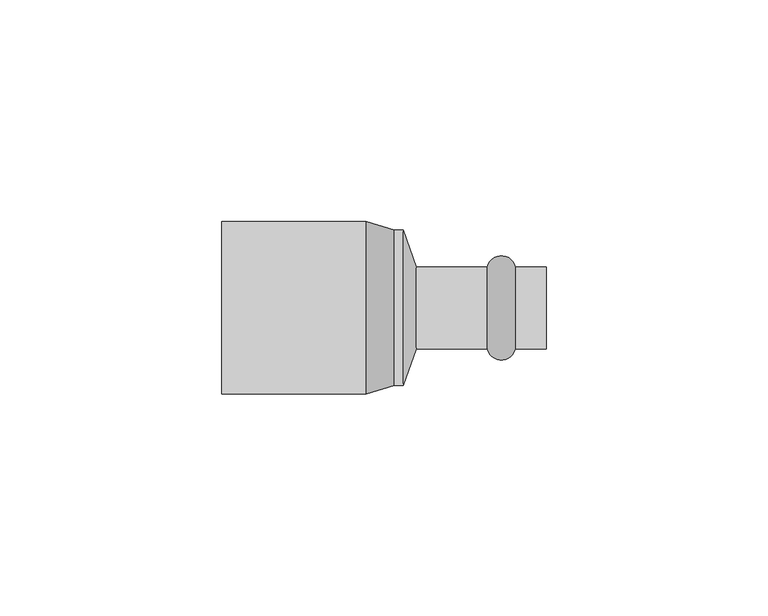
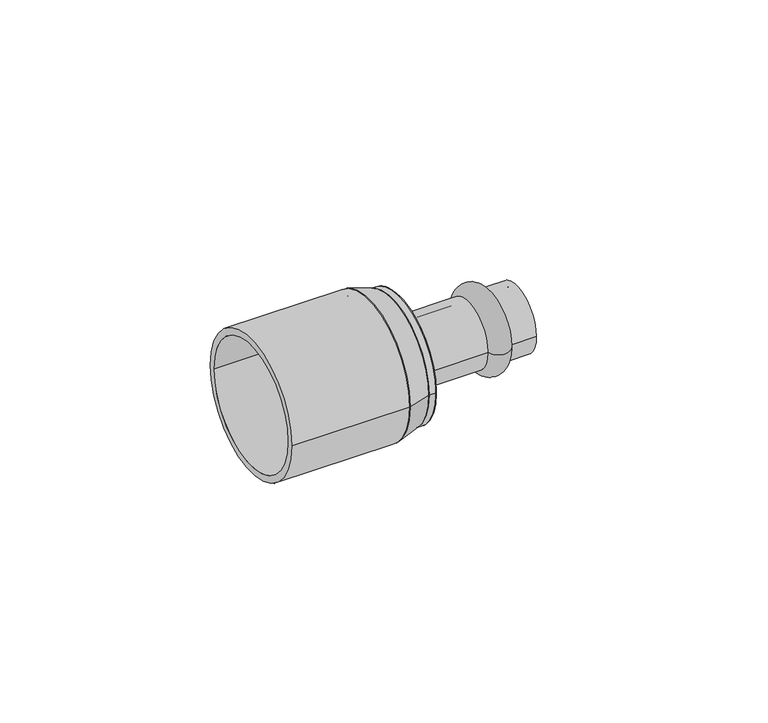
"""IFC4 building model written with IfcOpenShell, lengths in millimetres: pipe fitting geometry, VALTEC_VTi.905.I_Вставка переходная_Нержавеющая сталь : VTi.905.I."""

from ifc_helpers import new_model, si_unit, point, frame, origin, origin_2d, place, context, project, spatial, polyline, circle_curve, ellipse_curve, trimmed, segment, composite_curve, outline, extrude, source, transform, mapped, element, save
from ifc_brep_helpers import plane_surface, cylinder_surface, revolved_surface, advanced_brep


def pipe_fitting_846c0af7(model_context):
    return source(origin(), model_context, "Body", "SolidModel", [
        advanced_brep(
        [(29.6122777, -9.25, 0.0), (23.2877223, -9.25, 0.0), (23.2877223, 9.25, 0.0), (29.6122777, 9.25, 0.0), (36.5, -9.25, 0.0), (36.5, 9.25, 0.0), (36.5, -7.5, 0.0), (36.5, 7.5, 0.0), (7.3, -7.5, 0.0), (7.3, 7.5, 0.0), (7.3, -9.25, 0.0), (7.3, 9.25, 0.0)],
        [
            (0, 1, circle_curve(frame((26.45, -8.5, 0.0), z_axis=(0.0, 0.0, -1.0), x_axis=(-1.0, 0.0, 0.0)), 3.25)),
            (1, 2, circle_curve(frame((23.2877223, 0.0, 0.0), z_axis=(1.0, 0.0, 0.0), x_axis=(0.0, 1.0, 0.0)), 9.25)),
            (2, 3, circle_curve(frame((26.45, 8.5, 0.0), z_axis=(0.0, 0.0, -1.0), x_axis=(-1.0, 0.0, 0.0)), 3.25)),
            (3, 0, circle_curve(frame((29.6122777, 0.0, 0.0), z_axis=(-1.0, 0.0, 0.0), x_axis=(0.0, 1.0, 0.0)), 9.25)),
            (2, 1, circle_curve(frame((23.2877223, 0.0, 0.0), z_axis=(1.0, 0.0, 0.0), x_axis=(0.0, 1.0, 0.0)), 9.25)),
            (0, 3, circle_curve(frame((29.6122777, 0.0, 0.0), z_axis=(-1.0, 0.0, 0.0), x_axis=(0.0, 1.0, 0.0)), 9.25)),
            (4, 0),
            (3, 5),
            (5, 4, circle_curve(frame((36.5, 0.0, 0.0), z_axis=(-1.0, 0.0, 0.0), x_axis=(0.0, 1.0, 0.0)), 9.25)),
            (4, 5, circle_curve(frame((36.5, 0.0, 0.0), z_axis=(-1.0, 0.0, 0.0), x_axis=(0.0, 1.0, 0.0)), 9.25)),
            (6, 4),
            (5, 7),
            (7, 6, circle_curve(frame((36.5, 0.0, 0.0), z_axis=(-1.0, 0.0, 0.0), x_axis=(0.0, 1.0, 0.0)), 7.5)),
            (6, 7, circle_curve(frame((36.5, 0.0, 0.0), z_axis=(-1.0, 0.0, 0.0), x_axis=(0.0, 1.0, 0.0)), 7.5)),
            (8, 6),
            (7, 9),
            (9, 8, circle_curve(frame((7.3, 0.0, 0.0), z_axis=(-1.0, 0.0, 0.0), x_axis=(0.0, 1.0, 0.0)), 7.5)),
            (8, 9, circle_curve(frame((7.3, 0.0, 0.0), z_axis=(-1.0, 0.0, 0.0), x_axis=(0.0, 1.0, 0.0)), 7.5)),
            (10, 8),
            (9, 11),
            (11, 10, circle_curve(frame((7.3, 0.0, 0.0), z_axis=(-1.0, 0.0, 0.0), x_axis=(0.0, 1.0, 0.0)), 9.25)),
            (10, 11, circle_curve(frame((7.3, 0.0, 0.0), z_axis=(-1.0, 0.0, 0.0), x_axis=(0.0, 1.0, 0.0)), 9.25)),
            (1, 10),
            (11, 2),
        ],
        [
            revolved_surface(trimmed(ellipse_curve(frame((26.45, 8.5, 0.0), z_axis=(0.0, 0.0, -1.0), x_axis=(-1.0, 0.0, 0.0)), 3.25, 3.25), [point((23.2877223, 9.25, 0.0))], [point((29.6122777, 9.25, 0.0))], True, "CARTESIAN"), (40.0364426, 0.0, 0.0), (1.0, 0.0, 0.0)),
            cylinder_surface(frame((40.0364426, 0.0, 0.0), z_axis=(1.0, 0.0, 0.0), x_axis=(0.0, 1.0, 0.0)), 9.25),
            plane_surface(frame((36.5, 0.0, 0.0), z_axis=(1.0, 0.0, 0.0), x_axis=(0.0, 1.0, 0.0))),
            revolved_surface(polyline([(36.5, 7.5, 0.0), (7.299999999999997, 7.5, 0.0)]), (40.0364426, 0.0, 0.0), (1.0, 0.0, 0.0)),
            plane_surface(frame((7.3, 0.0, 0.0), z_axis=(-1.0, 0.0, 0.0), x_axis=(0.0, 1.0, 0.0))),
        ],
        [
            (0, [[1, 2, 3, 4]]),
            (0, [[-3, 5, -1, 6]]),
            (1, [[7, -4, 8, 9]]),
            (1, [[-8, -6, -7, 10]]),
            (2, [[11, -9, 12, 13]]),
            (2, [[-12, -10, -11, 14]]),
            (3, [[15, -13, 16, 17]]),
            (3, [[-16, -14, -15, 18]]),
            (4, [[19, -17, 20, 21]]),
            (4, [[-20, -18, -19, 22]]),
            (1, [[23, -21, 24, -2]]),
            (1, [[-24, -22, -23, -5]]),
        ],
    ),
        advanced_brep(
        [(4.3, -17.5, 0.0), (4.3, 17.5, 0.0), (7.3, -9.25, 0.0), (7.3, 9.25, 0.0)],
        [
            (0, 1, circle_curve(frame((4.3, 0.0, 0.0), z_axis=(-1.0, 0.0, 0.0), x_axis=(0.0, -1.0, 0.0)), 17.5)),
            (1, 0, circle_curve(frame((4.3, 0.0, 0.0), z_axis=(-1.0, 0.0, 0.0), x_axis=(0.0, 1.0, 0.0)), 17.5)),
            (2, 3, circle_curve(frame((7.3, 0.0, 0.0), z_axis=(1.0, 0.0, 0.0), x_axis=(0.0, 1.0, 0.0)), 9.25)),
            (3, 2, circle_curve(frame((7.3, 0.0, 0.0), z_axis=(1.0, 0.0, 0.0), x_axis=(0.0, -1.0, 0.0)), 9.25)),
            (2, 0),
            (1, 3),
        ],
        [
            plane_surface(frame((4.3, 0.0, 0.0), z_axis=(-1.0, 0.0, 0.0), x_axis=(0.0, 0.0, 1.0))),
            plane_surface(frame((7.3, 0.0, 0.0), z_axis=(1.0, 0.0, 0.0), x_axis=(0.0, 0.0, 1.0))),
            revolved_surface(polyline([(7.299999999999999, -9.250000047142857, 0.0), (4.3, -17.5, 0.0)]), (10.6636364, 0.0, 0.0), (-1.0, 0.0, 0.0)),
            revolved_surface(polyline([(7.299999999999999, 9.250000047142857, 0.0), (4.3, 17.5, 0.0)]), (10.6636364, 0.0, 0.0), (-1.0, 0.0, 0.0)),
        ],
        [
            (0, [[1, 2]]),
            (1, [[3, 4]]),
            (2, [[-3, 5, -2, 6]]),
            (3, [[-4, -6, -1, -5]]),
        ],
    ),
        extrude(outline(composite_curve([segment(trimmed(circle_curve(origin_2d(), 17.5), [point((-17.5, 0.0))], [point((17.5, 0.0))], False, "CARTESIAN"), True, "CONTINUOUS"), segment(trimmed(circle_curve(origin_2d(), 17.5), [point((17.5, 0.0))], [point((-17.5, 0.0))], False, "CARTESIAN"), True, "CONTINUOUS")], self_intersect=False)), frame((2.3, 0.0, 0.0), z_axis=(1.0, 0.0, 0.0), x_axis=(0.0, 1.0, 0.0)), (0.0, 0.0, 1.0), 2.0),
        advanced_brep(
        [(2.3, -17.5, 0.0), (2.3, 17.5, 0.0), (-4.0, -19.4, 0.0), (-4.0, 19.4, 0.0)],
        [
            (0, 1, circle_curve(frame((2.3, 0.0, 0.0), z_axis=(1.0, 0.0, 0.0), x_axis=(0.0, -1.0, 0.0)), 17.5)),
            (1, 0, circle_curve(frame((2.3, 0.0, 0.0), z_axis=(1.0, 0.0, 0.0), x_axis=(0.0, 1.0, 0.0)), 17.5)),
            (2, 3, circle_curve(frame((-4.0, 0.0, 0.0), z_axis=(-1.0, 0.0, 0.0), x_axis=(0.0, 1.0, 0.0)), 19.4)),
            (3, 2, circle_curve(frame((-4.0, 0.0, 0.0), z_axis=(-1.0, 0.0, 0.0), x_axis=(0.0, -1.0, 0.0)), 19.4)),
            (3, 1),
            (0, 2),
        ],
        [
            plane_surface(frame((2.3, 0.0, 0.0), z_axis=(1.0, 0.0, 0.0), x_axis=(0.0, 0.0, -1.0))),
            plane_surface(frame((-4.0, 0.0, 0.0), z_axis=(-1.0, 0.0, 0.0), x_axis=(0.0, 0.0, -1.0))),
            revolved_surface(polyline([(2.299999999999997, -17.500000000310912, 0.0), (-4.0, -19.4, 0.0)]), (60.3263158, 0.0, 0.0), (-1.0, 0.0, 0.0)),
            revolved_surface(polyline([(2.299999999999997, 17.500000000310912, 0.0), (-4.0, 19.4, 0.0)]), (60.3263158, 0.0, 0.0), (-1.0, 0.0, 0.0)),
        ],
        [
            (0, [[1, 2]]),
            (1, [[3, 4]]),
            (2, [[-4, 5, -1, 6]]),
            (3, [[-3, -6, -2, -5]]),
        ],
    ),
        extrude(outline(composite_curve([segment(trimmed(circle_curve(origin_2d(), 19.4), [point((-19.4, 0.0))], [point((19.4, 0.0))], False, "CARTESIAN"), True, "CONTINUOUS"), segment(trimmed(circle_curve(origin_2d(), 19.4), [point((19.4, 0.0))], [point((-19.4, 0.0))], False, "CARTESIAN"), True, "CONTINUOUS")], self_intersect=False), holes=[composite_curve([segment(trimmed(circle_curve(origin_2d(), 17.5), [point((-17.5, 0.0))], [point((17.5, 0.0))], True, "CARTESIAN"), True, "CONTINUOUS"), segment(trimmed(circle_curve(origin_2d(), 17.5), [point((17.5, 0.0))], [point((-17.5, 0.0))], True, "CARTESIAN"), True, "CONTINUOUS")], self_intersect=False)]), frame((-36.5, 0.0, 0.0), z_axis=(1.0, 0.0, 0.0), x_axis=(0.0, 1.0, 0.0)), (0.0, 0.0, 1.0), 32.5),
    ])


if __name__ == "__main__":
    model = new_model("IFC4")
    model_context = context("Model", 3, world=origin())
    ifc_project = project(units=[si_unit("LENGTHUNIT", "METRE", prefix="MILLI")], contexts=[model_context])
    site = spatial("IfcSite", under=ifc_project)
    building = spatial("IfcBuilding", under=site)
    placement = place(None, origin())
    pipe_fitting_shape = pipe_fitting_846c0af7(model_context)
    element("IfcPipeFitting", 1, ObjectType="VALTEC_VTi.905.I_Вставка переходная_Нержавеющая сталь : VTi.905.I", at=placement, inside=building, context=model_context, shape_type="MappedRepresentation", body=[
        mapped(pipe_fitting_shape, transform((0.0, 0.0, 0.0), x_axis=(1.0, 0.0, 0.0), y_axis=(0.0, 1.0, 0.0), z_axis=(0.0, 0.0, 1.0))),
    ])
    save(model, "model.ifc")
